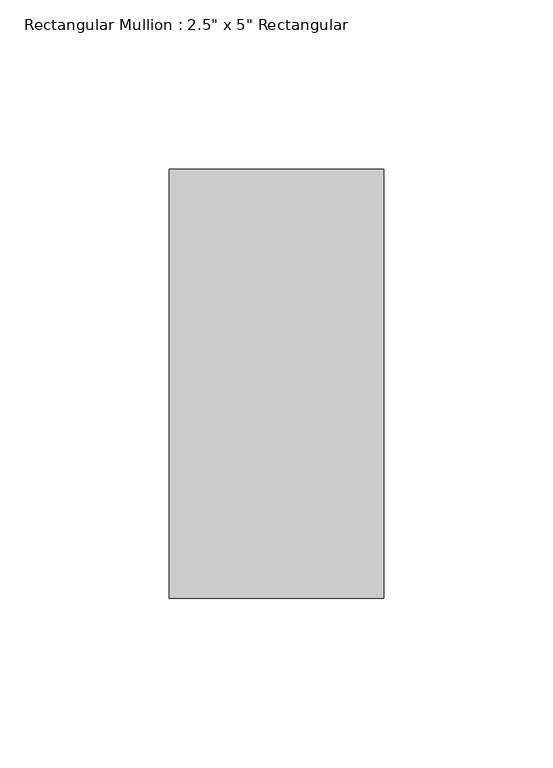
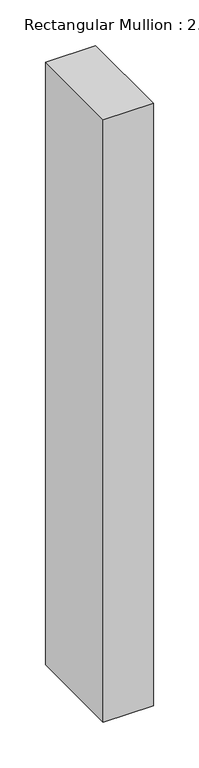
"""IFC4 building model written with IfcOpenShell, lengths in millimetres: member geometry."""

import ifcopenshell
import ifcopenshell.guid

model = None  # the IFC model being written
_history = None  # IfcOwnerHistory: only IFC2X3 demands one
_inside = {}  # id of a spatial element -> (the spatial element, [elements in it])
_under = {}  # id of a project, library or spatial element -> (it, [spatial elements below it])
_declared = {}  # id of a project -> (the project, [libraries it declares])
_typed = {}  # id of a type object -> (the type object, [elements of that type])
_made_of = {}  # id of a material, layer set ... -> (it, [elements and type objects made of it])


def new_model(schema):
    """Start an empty IFC model of exactly this schema.

    Asked for "IFC4X3", IfcOpenShell would pick the latest addendum, in which some entities
    have other attributes; the version numbers below select the first issue.
    IFC2X3 requires an IfcOwnerHistory on every rooted entity: one is made here for all.
    """
    global model, _history
    if schema == "IFC4X3":
        model = ifcopenshell.file(schema_version=(4, 3, 0, 0))
    else:
        model = ifcopenshell.file(schema=schema)
    _inside.clear()
    _under.clear()
    _declared.clear()
    _typed.clear()
    _made_of.clear()
    _history = None
    if model.schema == "IFC2X3":
        org = make("IfcOrganization", Name="unknown")
        user = make(
            "IfcPersonAndOrganization",
            ThePerson=make("IfcPerson", FamilyName="unknown"),
            TheOrganization=org,
        )
        app = make(
            "IfcApplication",
            ApplicationDeveloper=org,
            Version="unknown",
            ApplicationFullName="unknown",
            ApplicationIdentifier="unknown",
        )
        _history = make(
            "IfcOwnerHistory",
            OwningUser=user,
            OwningApplication=app,
            ChangeAction="ADDED",
            CreationDate=0,
        )
    return model


def make(cls, **values):
    """One entity of the class cls with the attributes given. An attribute that is None is left unset."""
    return model.create_entity(
        cls, **{name: value for name, value in values.items() if value is not None}
    )


def rooted(cls, **values):
    """An entity with a GlobalId (a new one), such as an element, a storey or a relation."""
    return make(cls, GlobalId=ifcopenshell.guid.new(), OwnerHistory=_history, **values)


def si_unit(unit_type, name, prefix=None):
    """IfcSIUnit, for example si_unit("LENGTHUNIT", "METRE", prefix="MILLI")."""
    return make("IfcSIUnit", UnitType=unit_type, Prefix=prefix, Name=name)


def assignment(units):
    """IfcUnitAssignment: the units of a project."""
    return None if units is None else make("IfcUnitAssignment", Units=units)


def point(xyz):
    """IfcCartesianPoint."""
    return None if xyz is None else make("IfcCartesianPoint", Coordinates=xyz)


def direction(xyz):
    """IfcDirection."""
    return None if xyz is None else make("IfcDirection", DirectionRatios=xyz)


def frame(location, z_axis=None, x_axis=None):
    """IfcAxis2Placement3D, a coordinate frame: its origin and axes. An axis left out is left unset."""
    return make(
        "IfcAxis2Placement3D",
        Location=point(location),
        Axis=direction(z_axis),
        RefDirection=direction(x_axis),
    )


def origin():
    """The frame at (0, 0, 0) with its axes left unset."""
    return frame((0.0, 0.0, 0.0))


def place(relative_to, where):
    """IfcLocalPlacement: puts the frame where relative to a parent placement (None: the world)."""
    return make(
        "IfcLocalPlacement", PlacementRelTo=relative_to, RelativePlacement=where
    )


def context(
    kind, dimensions, precision=None, world=None, true_north=None, identifier=None
):
    """IfcGeometricRepresentationContext, for example the 3D "Model" context."""
    return make(
        "IfcGeometricRepresentationContext",
        ContextIdentifier=identifier,
        ContextType=kind,
        CoordinateSpaceDimension=dimensions,
        Precision=precision,
        WorldCoordinateSystem=world,
        TrueNorth=true_north,
    )


def project(units=None, contexts=None):
    """IfcProject with its units and contexts."""
    return rooted(
        "IfcProject",
        Name="project",
        RepresentationContexts=contexts,
        UnitsInContext=assignment(units),
    )


def spatial(cls, under=None, at=None, **own):
    """A site, building, storey or space (cls), placed at a placement, below another one or the project."""
    s = rooted(cls, ObjectPlacement=at, **own)
    if under is not None:
        _under.setdefault(under.id(), (under, []))[1].append(s)
    return s


def polyline(points):
    """IfcPolyline through the points."""
    return make("IfcPolyline", Points=[point(p) for p in points])


def outline(outer, holes=None, kind="AREA"):
    """IfcArbitraryClosedProfileDef: a profile drawn as a closed curve; with holes, ...WithVoids."""
    if holes is None:
        return make("IfcArbitraryClosedProfileDef", ProfileType=kind, OuterCurve=outer)
    return make(
        "IfcArbitraryProfileDefWithVoids",
        ProfileType=kind,
        OuterCurve=outer,
        InnerCurves=holes,
    )


def extrude(swept, where, along, depth):
    """IfcExtrudedAreaSolid: the profile swept, set in the frame where, extruded along a direction by depth."""
    return make(
        "IfcExtrudedAreaSolid",
        SweptArea=swept,
        Position=where,
        ExtrudedDirection=direction(along),
        Depth=depth,
    )


def shape(context_of_items, identifier, shape_type, items):
    """IfcShapeRepresentation: the items that make up one representation, for example the "Body"."""
    return make(
        "IfcShapeRepresentation",
        ContextOfItems=context_of_items,
        RepresentationIdentifier=identifier,
        RepresentationType=shape_type,
        Items=items,
    )


def source(mapping_origin, context_of_items, identifier, shape_type, items):
    """IfcRepresentationMap: a shape defined once, which mapped items show again and again."""
    return make(
        "IfcRepresentationMap",
        MappingOrigin=mapping_origin,
        MappedRepresentation=shape(context_of_items, identifier, shape_type, items),
    )


def transform(
    local_origin,
    x_axis=None,
    y_axis=None,
    z_axis=None,
    scale=None,
    scale2=None,
    scale3=None,
    uniform=True,
):
    """IfcCartesianTransformationOperator3D, or its non-uniform kind. x_axis, y_axis, z_axis: its Axis1, 2, 3."""
    if uniform:
        return make(
            "IfcCartesianTransformationOperator3D",
            Axis1=direction(x_axis),
            Axis2=direction(y_axis),
            LocalOrigin=point(local_origin),
            Scale=scale,
            Axis3=direction(z_axis),
        )
    return make(
        "IfcCartesianTransformationOperator3DnonUniform",
        Axis1=direction(x_axis),
        Axis2=direction(y_axis),
        LocalOrigin=point(local_origin),
        Scale=scale,
        Axis3=direction(z_axis),
        Scale2=scale2,
        Scale3=scale3,
    )


def mapped(mapping_source, mapping_target):
    """IfcMappedItem: shows the shape of a source again, moved by a transform."""
    return make(
        "IfcMappedItem", MappingSource=mapping_source, MappingTarget=mapping_target
    )


def made_of(thing, what):
    """Note that an element or type object is made of a material, layer set ...; save() writes the relation."""
    if what is not None:
        _made_of.setdefault(what.id(), (what, []))[1].append(thing)
    return thing


def element(
    cls,
    number,
    at=None,
    inside=None,
    cuts=None,
    type_object=None,
    material=None,
    context=None,
    identifier="Body",
    shape_type=None,
    held_by="IfcProductDefinitionShape",
    body=None,
    shapes=None,
    **own,
):
    """One element of the class cls, such as IfcWall. Its Tag is "e" and its number.

    at: its placement. inside: the storey or other place that contains it. cuts: it is an
    opening in that element (IfcRelVoidsElement). A single representation is given by context,
    identifier, shape_type and body (its items); several are given by shapes. held_by: the class
    of the entity that holds the representations. save() writes the other relations.
    """
    e = rooted(cls, Tag="e%d" % number, ObjectPlacement=at, **own)
    if body is not None:
        shapes = [shape(context, identifier, shape_type, body)]
    if shapes is not None:
        e.Representation = make(held_by, Representations=shapes)
    if inside is not None:
        _inside.setdefault(inside.id(), (inside, []))[1].append(e)
    if cuts is not None:
        rooted(
            "IfcRelVoidsElement", RelatingBuildingElement=cuts, RelatedOpeningElement=e
        )
    if type_object is not None:
        _typed.setdefault(type_object.id(), (type_object, []))[1].append(e)
    return made_of(e, material)


def aggregate(whole, parts):
    """IfcRelAggregates: a whole, such as a stair, and the parts it consists of."""
    return rooted("IfcRelAggregates", RelatingObject=whole, RelatedObjects=parts)


def save(model, path):
    """Write the relations noted so far, then the file.

    IfcRelAggregates (storeys below a building ...), IfcRelContainedInSpatialStructure (elements
    in a storey), IfcRelDefinesByType, IfcRelAssociatesMaterial and IfcRelDeclares: one each for
    every whole, place, type object, material and project.
    """
    for whole, parts in _under.values():
        aggregate(whole, parts)
    for where, things in _inside.values():
        rooted(
            "IfcRelContainedInSpatialStructure",
            RelatedElements=things,
            RelatingStructure=where,
        )
    for kind, things in _typed.values():
        rooted("IfcRelDefinesByType", RelatedObjects=things, RelatingType=kind)
    for what, things in _made_of.values():
        rooted("IfcRelAssociatesMaterial", RelatedObjects=things, RelatingMaterial=what)
    for by, libraries in _declared.values():
        rooted("IfcRelDeclares", RelatingContext=by, RelatedDefinitions=libraries)
    model.write(path)


def member_c48a49bf(model_context):
    return source(origin(), model_context, "Body", "SweptSolid", [
        extrude(outline(polyline([(31.75, 63.5), (31.75, -63.5), (-31.75, -63.5), (-31.75, 63.5), (31.75, 63.5)])), frame((0.0, 0.0, -807.24375), z_axis=(0.0, 0.0, 1.0), x_axis=(1.0, 0.0, 0.0)), (0.0, 0.0, 1.0), 807.24375),
    ])


if __name__ == "__main__":
    model = new_model("IFC4")
    model_context = context("Model", 3, world=origin())
    ifc_project = project(units=[si_unit("LENGTHUNIT", "METRE", prefix="MILLI")], contexts=[model_context])
    site = spatial("IfcSite", under=ifc_project)
    building = spatial("IfcBuilding", under=site)
    placement = place(None, origin())
    member_shape = member_c48a49bf(model_context)
    element("IfcMember", 1, ObjectType="Rectangular Mullion : 2.5\" x 5\" Rectangular", at=placement, inside=building, context=model_context, shape_type="MappedRepresentation", body=[
        mapped(member_shape, transform((0.0, 0.0, 0.0), x_axis=(1.0, 0.0, 0.0), y_axis=(0.0, 1.0, 0.0), z_axis=(0.0, 0.0, 1.0))),
    ])
    save(model, "model.ifc")
